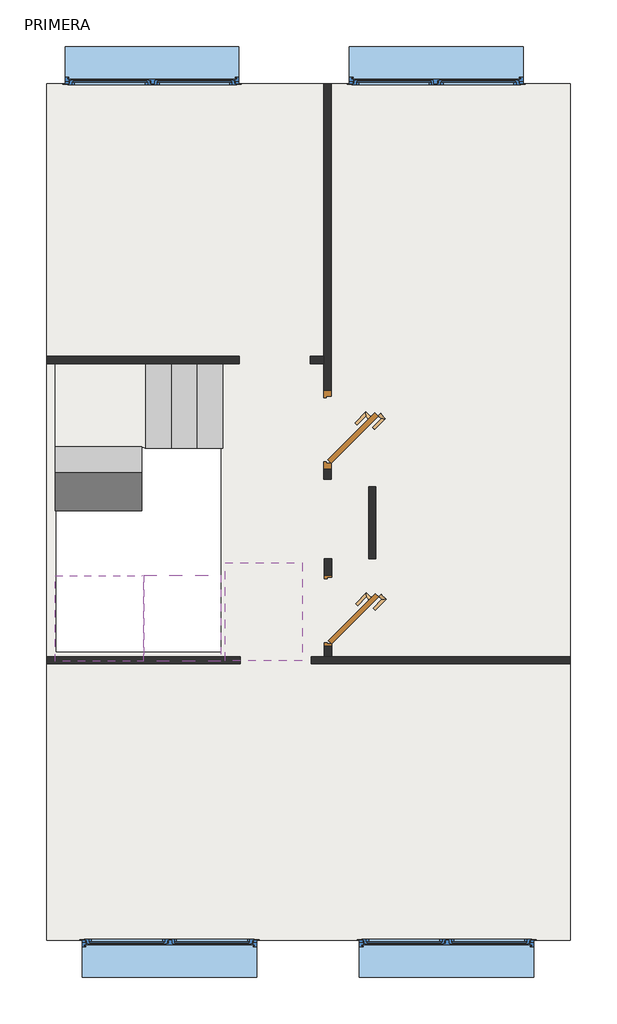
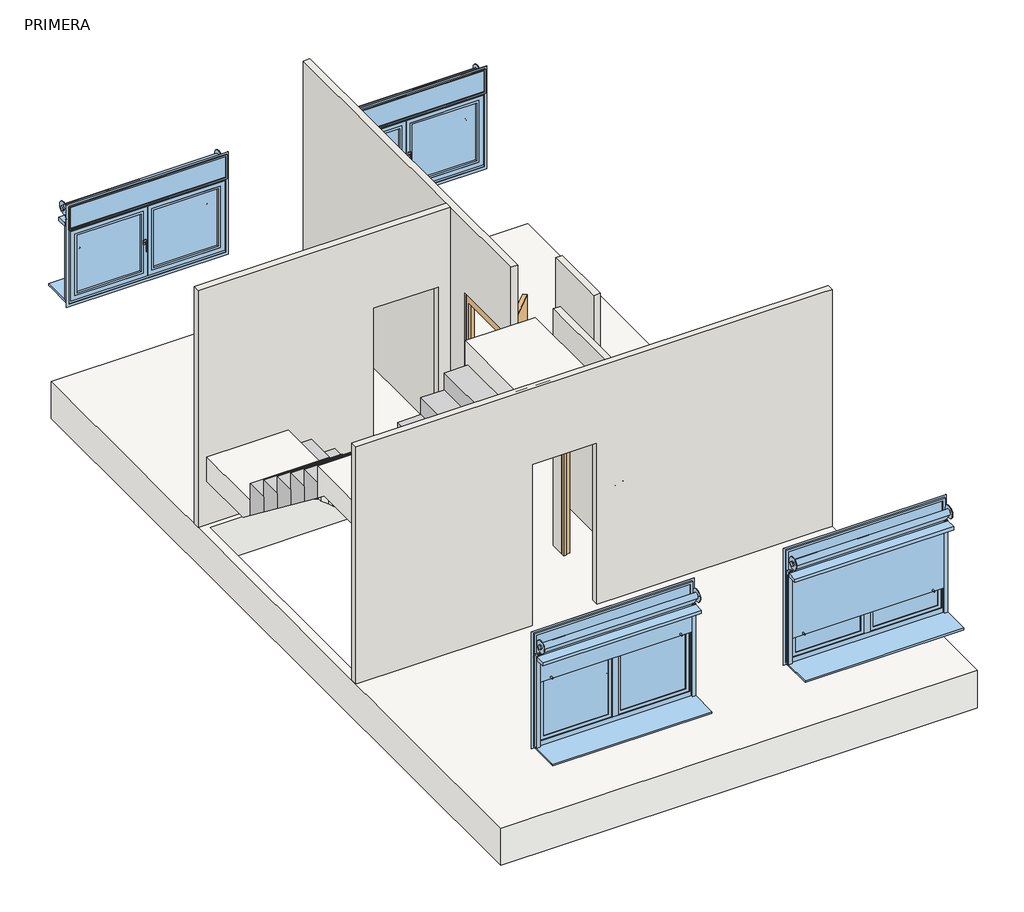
# One storey: 5 walls, 4 slabs, 4 windows, 3 stair flights, 2 doors.
"""IFC4 building model written with IfcOpenShell, lengths in millimetres."""

from ifc_helpers import new_model, si_unit, frame, origin, place, context, project, spatial, polyline, outline, extrude, faceted_brep, transform, mapped, element, save
from components import door_72_5_x_203_cm_4a5d1edf, window_7e7f52a2, window_e1a544ef, window_bd042ff0, window_6fa71baf

model = new_model("IFC4")

# Units and contexts
model_context = context("Model", 3, world=origin())
ifc_project = project(units=[si_unit("LENGTHUNIT", "METRE", prefix="MILLI")], contexts=[model_context])

# Site, building, storey
site = spatial("IfcSite", under=ifc_project)
building = spatial("IfcBuilding", under=site)
storey = spatial("IfcBuildingStorey", under=building, Name="PRIMERA", Elevation=7000.0)

# Doors
placement = place(None, origin())
door_72_5_x_203_cm_shape = door_72_5_x_203_cm_4a5d1edf(model_context)
element("IfcDoor", 1, ObjectType="Puerta abatible ciega con ventilación : 72.5 x 203 cm", at=placement, inside=storey, context=model_context, shape_type="MappedRepresentation", body=[
    mapped(door_72_5_x_203_cm_shape, transform((-3903.6811043, -10282.9701634, 7000.0), x_axis=(0.0, 1.0, 0.0), y_axis=(-1.0, 0.0, 0.0), z_axis=(0.0, 0.0, 1.0))),
])
element("IfcDoor", 2, ObjectType="Puerta abatible ciega con ventilación : 72.5 x 203 cm", at=placement, inside=storey, context=model_context, shape_type="MappedRepresentation", body=[
    mapped(door_72_5_x_203_cm_shape, transform((-3897.4530766, -12251.2017233, 7000.0), x_axis=(0.0, 1.0, 0.0), y_axis=(-1.0, 0.0, 0.0), z_axis=(0.0, 0.0, 1.0))),
])

# Slabs
element("IfcSlab", 3, ObjectType="Grosor 300 mm", at=placement, inside=storey, context=model_context, shape_type="Brep", body=[
    faceted_brep([(-5922.9130424, -11869.9758253, 9142.8571429), (-6862.9130424, -11869.9758253, 9142.8571429), (-6862.9130424, -12004.7874944, 9142.8571429), (-6862.9130424, -12803.734164, 9142.8571429), (-6048.1013733, -12803.734164, 9142.8571429), (-5902.9130424, -12803.734164, 9142.8571429), (-5902.9130424, -11864.9758253, 9142.8571429), (-5922.9130424, -11869.9758253, 8938.664539), (-5922.9130424, -11869.9758253, 8928.5714286), (-5922.9130424, -11869.9758253, 8739.6849471), (-6862.9130424, -11869.9758253, 8739.6849471), (-6862.9130424, -11869.9758253, 8928.5714286), (-6862.9130424, -12004.7874944, 8842.8571429), (-6862.9130424, -12803.734164, 8842.8571429), (-6048.1013733, -12803.734164, 8842.8571429), (-5902.9130424, -12803.734164, 8953.9706614), (-5902.9130424, -11864.9758253, 8953.9706614), (-6462.1597187, -12004.7874944, 8842.8571429), (-6048.1013733, -12004.7874944, 8842.8571429), (-5922.9130424, -12004.7874944, 8842.8571429), (-5922.9130424, -12004.7874944, 8938.664539)], [[[0, 1, 2, 3, 4, 5, 6]], [[1, 0, 7, 8, 9, 10, 11]], [[1, 11, 10, 12, 13, 3, 2]], [[3, 13, 14, 15, 5, 4]], [[6, 5, 15, 16]], [[0, 6, 16, 7]], [[12, 17, 18, 14, 13]], [[19, 18, 17, 12, 10, 9]], [[18, 19, 20]], [[20, 19, 9, 8, 7]], [[14, 18, 20, 7, 16, 15]]]),
])
element("IfcSlab", 4, ObjectType="Grosor 300 mm", at=placement, inside=storey, context=model_context, shape_type="Brep", body=[
    faceted_brep([(-5884.4147176, -10485.7372309, 7857.1428571), (-5884.4147176, -9554.9701632, 7857.1428571), (-6019.2263867, -9554.9701632, 7857.1428571), (-6862.9130424, -9554.9701632, 7857.1428571), (-6862.9130424, -10324.7874944, 7857.1428571), (-6862.9130424, -10469.9758253, 7857.1428571), (-5922.9130424, -10469.9758253, 7857.1428571), (-6862.9130424, -9554.9701632, 7557.1428571), (-6862.9130424, -10324.7874944, 7557.1428571), (-6862.9130424, -10469.9758253, 7668.2563757), (-5922.9130424, -10469.9758253, 7483.4336651), (-5884.4147176, -10485.7372309, 7453.9706614), (-5884.4147176, -9554.9701632, 7453.9706614), (-5884.4147176, -9554.9701632, 7642.8571429), (-6019.2263867, -9554.9701632, 7557.1428571), (-6019.2263867, -10469.9758253, 7668.2563757), (-6019.2263867, -10469.9758253, 7557.1428571), (-6019.2263867, -10430.5446634, 7557.1428571), (-6277.5455974, -10324.7874944, 7557.1428571), (-6019.2263867, -10324.7874944, 7557.1428571), (-6019.2263867, -10430.5446634, 7638.0794661)], [[[0, 1, 2, 3, 4, 5, 6]], [[3, 7, 8, 9, 5, 4]], [[0, 6, 10, 11]], [[1, 0, 11, 12, 13]], [[1, 13, 12, 14, 7, 3, 2]], [[6, 5, 9, 15, 16, 10]], [[17, 18, 8, 7, 14, 19]], [[18, 17, 20]], [[19, 14, 12, 11, 10, 16, 17]], [[20, 17, 16, 15]], [[8, 18, 20, 15, 9]]]),
])
element("IfcSlab", 5, ObjectType="Grosor 300 mm", at=placement, inside=storey, context=model_context, shape_type="SweptSolid", body=[
    extrude(outline(polyline([(-4178.9609461, -11732.7974399), (-4178.9609461, -12795.2974399), (-5017.4530766, -12795.2974399), (-5017.4530766, -11732.7974399), (-4178.9609461, -11732.7974399)])), frame((0.0, 0.0, 9700.0), z_axis=(0.0, 0.0, 1.0), x_axis=(1.0, 0.0, 0.0)), (0.0, 0.0, 1.0), 300.0),
])
element("IfcSlab", 6, ObjectType="Forjado", at=placement, inside=storey, context=model_context, shape_type="SweptSolid", body=[
    extrude(outline(polyline([(-1259.1530766, -6516.7945269), (-1259.1530766, -15838.1457931), (-6960.2380085, -15838.1457931), (-6960.2380085, -6516.7945269), (-1259.1530766, -6516.7945269)]), holes=[polyline([(-5064.0917474, -9625.4701634), (-6853.4380085, -9625.4701634), (-6853.4380085, -12698.734164), (-5064.0917474, -12698.734164), (-5064.0917474, -9625.4701634)])]), frame((0.0, 0.0, 6530.0), z_axis=(0.0, 0.0, 1.0), x_axis=(1.0, 0.0, 0.0)), (0.0, 0.0, 1.0), 470.0),
])

# Stair flights
element("IfcStairFlight", 7, ObjectType="Profundidad estructural 150 mm", at=placement, inside=storey, context=model_context, shape_type="Brep", body=[
    faceted_brep([(-5324.4147176, -10485.7372309, 7214.2857143), (-5044.4147176, -10485.7372309, 7214.2857143), (-5044.4147176, -9554.9701632, 7214.2857143), (-5324.4147176, -9554.9701632, 7214.2857143), (-5324.4147176, -10485.7372309, 7025.3992328), (-5291.2263867, -10485.7372309, 7000.0), (-5044.4147176, -10485.7372309, 7000.0), (-5044.4147176, -9554.9701632, 7000.0), (-5291.2263867, -9554.9701632, 7000.0), (-5324.4147176, -9554.9701632, 7025.3992328), (-5604.4147176, -10485.7372309, 7428.5714286), (-5324.4147176, -10485.7372309, 7428.5714286), (-5324.4147176, -9554.9701632, 7428.5714286), (-5604.4147176, -9554.9701632, 7428.5714286), (-5604.4147176, -10485.7372309, 7239.6849471), (-5604.4147176, -9554.9701632, 7239.6849471), (-5884.4147176, -10485.7372309, 7642.8571429), (-5604.4147176, -10485.7372309, 7642.8571429), (-5604.4147176, -9554.9701632, 7642.8571429), (-5884.4147176, -9554.9701632, 7642.8571429), (-5884.4147176, -10485.7372309, 7453.9706614), (-5884.4147176, -9554.9701632, 7453.9706614)], [[[0, 1, 2, 3]], [[1, 0, 4, 5, 6]], [[2, 1, 6, 7]], [[3, 2, 7, 8, 9]], [[10, 11, 12, 13]], [[11, 10, 14, 4, 0]], [[0, 3, 12, 11]], [[13, 12, 3, 9, 15]], [[16, 17, 18, 19]], [[17, 16, 20, 14, 10]], [[10, 13, 18, 17]], [[19, 18, 13, 15, 21]], [[16, 19, 21, 20]], [[7, 6, 5, 8]], [[8, 5, 4, 14, 20, 21, 15, 9]]]),
])
element("IfcStairFlight", 8, ObjectType="Profundidad estructural 150 mm", at=placement, inside=storey, context=model_context, shape_type="Brep", body=[
    faceted_brep([(-5922.9130424, -10749.9758253, 8071.4285714), (-5922.9130424, -10469.9758253, 8071.4285714), (-6862.9130424, -10469.9758253, 8071.4285714), (-6862.9130424, -10749.9758253, 8071.4285714), (-5922.9130424, -10749.9758253, 7882.54209), (-5922.9130424, -10469.9758253, 7668.2563757), (-6019.2263867, -10469.9758253, 7668.2563757), (-6862.9130424, -10469.9758253, 7668.2563757), (-6862.9130424, -10469.9758253, 7857.1428571), (-6862.9130424, -10749.9758253, 7882.54209), (-5922.9130424, -11029.9758253, 8285.7142857), (-5922.9130424, -10749.9758253, 8285.7142857), (-6862.9130424, -10749.9758253, 8285.7142857), (-6862.9130424, -11029.9758253, 8285.7142857), (-5922.9130424, -11029.9758253, 8096.8278043), (-6862.9130424, -11029.9758253, 8096.8278043), (-5922.9130424, -11309.9758253, 8500.0), (-5922.9130424, -11029.9758253, 8500.0), (-6862.9130424, -11029.9758253, 8500.0), (-6862.9130424, -11309.9758253, 8500.0), (-5922.9130424, -11309.9758253, 8311.1135186), (-6862.9130424, -11309.9758253, 8311.1135186), (-5922.9130424, -11589.9758253, 8714.2857143), (-5922.9130424, -11309.9758253, 8714.2857143), (-6862.9130424, -11309.9758253, 8714.2857143), (-6862.9130424, -11589.9758253, 8714.2857143), (-5922.9130424, -11589.9758253, 8525.3992328), (-6862.9130424, -11589.9758253, 8525.3992328), (-5922.9130424, -11869.9758253, 8928.5714286), (-5922.9130424, -11589.9758253, 8928.5714286), (-6862.9130424, -11589.9758253, 8928.5714286), (-6862.9130424, -11869.9758253, 8928.5714286), (-5922.9130424, -11869.9758253, 8739.6849471), (-6862.9130424, -11869.9758253, 8739.6849471)], [[[0, 1, 2, 3]], [[1, 0, 4, 5]], [[2, 1, 5, 6, 7, 8]], [[3, 2, 8, 7, 9]], [[10, 11, 12, 13]], [[11, 10, 14, 4, 0]], [[0, 3, 12, 11]], [[13, 12, 3, 9, 15]], [[16, 17, 18, 19]], [[17, 16, 20, 14, 10]], [[10, 13, 18, 17]], [[19, 18, 13, 15, 21]], [[22, 23, 24, 25]], [[23, 22, 26, 20, 16]], [[16, 19, 24, 23]], [[25, 24, 19, 21, 27]], [[28, 29, 30, 31]], [[29, 28, 32, 26, 22]], [[22, 25, 30, 29]], [[31, 30, 25, 27, 33]], [[28, 31, 33, 32]], [[5, 4, 14, 20, 26, 32, 33, 27, 21, 15, 9, 7, 6]]]),
])
element("IfcStairFlight", 9, ObjectType="Profundidad estructural 150 mm", at=placement, inside=storey, context=model_context, shape_type="Brep", body=[
    faceted_brep([(-5622.9130424, -11864.9758253, 9357.1428571), (-5902.9130424, -11864.9758253, 9357.1428571), (-5902.9130424, -12803.734164, 9357.1428571), (-5622.9130424, -12803.734164, 9357.1428571), (-5622.9130424, -11864.9758253, 9168.2563757), (-5902.9130424, -11864.9758253, 8953.9706614), (-5902.9130424, -12803.734164, 8953.9706614), (-5902.9130424, -12803.734164, 9142.8571429), (-5622.9130424, -12803.734164, 9168.2563757), (-5342.9130424, -11864.9758253, 9571.4285714), (-5622.9130424, -11864.9758253, 9571.4285714), (-5622.9130424, -12803.734164, 9571.4285714), (-5342.9130424, -12803.734164, 9571.4285714), (-5342.9130424, -11864.9758253, 9382.54209), (-5342.9130424, -12803.734164, 9382.54209), (-5062.9130424, -11864.9758253, 9785.7142857), (-5342.9130424, -11864.9758253, 9785.7142857), (-5342.9130424, -12803.734164, 9785.7142857), (-5062.9130424, -12803.734164, 9785.7142857), (-5062.9130424, -11864.9758253, 9596.8278043), (-5062.9130424, -12803.734164, 9596.8278043)], [[[0, 1, 2, 3]], [[1, 0, 4, 5]], [[2, 1, 5, 6, 7]], [[3, 2, 7, 6, 8]], [[9, 10, 11, 12]], [[10, 9, 13, 4, 0]], [[11, 10, 0, 3]], [[12, 11, 3, 8, 14]], [[15, 16, 17, 18]], [[16, 15, 19, 13, 9]], [[17, 16, 9, 12]], [[18, 17, 12, 14, 20]], [[15, 18, 20, 19]], [[5, 4, 13, 19, 20, 14, 8, 6]]]),
])

# Walls
element("IfcWall", 10, ObjectType="Tabique cartón-yeso", at=placement, inside=storey, context=model_context, shape_type="Brep", body=[
    faceted_brep([(-3943.6811043, -9562.9701634, 10000.0), (-6960.2380085, -9562.9701634, 10000.0), (-6960.2380085, -9562.9701634, 7000.0), (-4862.8701753, -9562.9701634, 7000.0), (-4862.8701753, -9562.9701634, 9040.0), (-4089.4530766, -9562.9701634, 9040.0), (-4089.4530766, -9562.9701634, 7000.0), (-3943.6811043, -9562.9701634, 7000.0), (-6960.2380085, -9482.9701634, 10000.0), (-6909.4740076, -9482.9701634, 10000.0), (-3943.6811043, -9482.9701634, 10000.0), (-3943.6811043, -9482.9701634, 7000.0), (-4089.4530766, -9482.9701634, 7000.0), (-4089.4530766, -9482.9701634, 9040.0), (-4862.8701753, -9482.9701634, 9040.0), (-4862.8701753, -9482.9701634, 7000.0), (-6909.4740076, -9482.9701634, 7000.0), (-6960.2380085, -9482.9701634, 7000.0), (-6960.2380085, -9520.2061626, 7000.0)], [[[0, 1, 2, 3, 4, 5, 6, 7]], [[8, 9, 10, 11, 12, 13, 14, 15, 16, 17]], [[11, 7, 6, 12]], [[2, 18, 17, 16, 15, 3]], [[1, 0, 10, 9, 8]], [[5, 13, 12, 6]], [[14, 4, 3, 15]], [[13, 5, 4, 14]], [[0, 7, 11, 10]], [[2, 1, 8, 17, 18]]]),
])
element("IfcWall", 11, ObjectType="Tabique cartón-yeso", at=placement, inside=storey, context=model_context, shape_type="Brep", body=[
    faceted_brep([(-6960.2380085, -12750.9701634, 10000.0), (-3937.4530766, -12750.9701634, 10000.0), (-3857.4530766, -12750.9701634, 10000.0), (-1259.1530766, -12750.9701634, 10000.0), (-1259.1530766, -12750.9701634, 7000.0), (-3857.4530766, -12750.9701634, 7000.0), (-3937.4530766, -12750.9701634, 7000.0), (-4076.9530766, -12750.9701634, 7000.0), (-4076.9530766, -12750.9701634, 9040.0), (-4850.3701753, -12750.9701634, 9040.0), (-4850.3701753, -12750.9701634, 7000.0), (-6960.2380085, -12750.9701634, 7000.0), (-1259.1530766, -12830.9701634, 10000.0), (-1359.1530766, -12830.9701634, 10000.0), (-6909.4740076, -12830.9701634, 10000.0), (-6960.2380085, -12830.9701634, 10000.0), (-6960.2380085, -12830.9701634, 7000.0), (-6909.4740076, -12830.9701634, 7000.0), (-4850.3701753, -12830.9701634, 7000.0), (-4850.3701753, -12830.9701634, 9040.0), (-4076.9530766, -12830.9701634, 9040.0), (-4076.9530766, -12830.9701634, 7000.0), (-1359.1530766, -12830.9701634, 7000.0), (-1259.1530766, -12830.9701634, 7000.0), (-6960.2380085, -12829.734164, 7000.0), (-1259.1530766, -12829.734164, 7000.0)], [[[0, 1, 2, 3, 4, 5, 6, 7, 8, 9, 10, 11]], [[12, 13, 14, 15, 16, 17, 18, 19, 20, 21, 22, 23]], [[16, 24, 11, 10, 18, 17]], [[4, 25, 23, 22, 21, 7, 6, 5]], [[3, 2, 1, 0, 15, 14, 13, 12]], [[20, 8, 7, 21]], [[9, 19, 18, 10]], [[8, 20, 19, 9]], [[0, 11, 24, 16, 15]], [[4, 3, 12, 23, 25]]]),
])
element("IfcWall", 12, ObjectType="Tabique cartón-yeso", at=placement, inside=storey, context=model_context, shape_type="Brep", body=[
    faceted_brep([(-3376.0472459, -11687.9332832, 7000.0), (-3376.0472459, -10900.4118523, 7000.0), (-3376.0472459, -10900.4118523, 10000.0), (-3376.0472459, -11687.9332832, 10000.0), (-3456.0472459, -11687.9332832, 7000.0), (-3456.0472459, -11687.9332832, 10000.0), (-3456.0472459, -10900.4118523, 10000.0), (-3456.0472459, -10900.4118523, 7000.0), (-3377.5472459, -11687.9332832, 7000.0)], [[[0, 1, 2, 3]], [[4, 5, 6, 7]], [[1, 0, 8, 4, 7]], [[3, 2, 6, 5]], [[2, 1, 7, 6]], [[0, 3, 5, 4, 8]]]),
])
element("IfcWall", 13, ObjectType="Tabique cartón-yeso", at=placement, inside=storey, context=model_context, shape_type="Brep", body=[
    faceted_brep([(-3857.4530766, -11687.9332832, 10000.0), (-3857.4530766, -11767.9332832, 10000.0), (-3857.4530766, -12750.9701634, 10000.0), (-3857.4530766, -12750.9701634, 7000.0), (-3857.4530766, -12638.7017233, 7000.0), (-3857.4530766, -12638.7017233, 9090.0), (-3857.4530766, -11865.2846246, 9090.0), (-3857.4530766, -11865.2846246, 7000.0), (-3857.4530766, -11767.9332832, 7000.0), (-3857.4530766, -11687.9332832, 7000.0), (-3937.4530766, -12750.9701634, 10000.0), (-3937.4530766, -11687.9332832, 10000.0), (-3937.4530766, -11687.9332832, 7000.0), (-3937.4530766, -11865.2846246, 7000.0), (-3937.4530766, -11865.2846246, 9090.0), (-3937.4530766, -12638.7017233, 9090.0), (-3937.4530766, -12638.7017233, 7000.0), (-3937.4530766, -12750.9701634, 7000.0)], [[[0, 1, 2, 3, 4, 5, 6, 7, 8, 9]], [[10, 11, 12, 13, 14, 15, 16, 17]], [[3, 17, 16, 4]], [[12, 9, 8, 7, 13]], [[2, 1, 0, 11, 10]], [[3, 2, 10, 17]], [[15, 5, 4, 16]], [[6, 14, 13, 7]], [[5, 15, 14, 6]], [[0, 9, 12, 11]]]),
])
element("IfcWall", 14, ObjectType="Tabique cartón-yeso", at=placement, inside=storey, context=model_context, shape_type="Brep", body=[
    faceted_brep([(-3863.6811043, -6516.7945269, 10000.0), (-3863.6811043, -10820.4118523, 10000.0), (-3863.6811043, -10820.4118523, 7000.0), (-3863.6811043, -10670.4701634, 7000.0), (-3863.6811043, -10670.4701634, 9090.0), (-3863.6811043, -9897.0530647, 9090.0), (-3863.6811043, -9897.0530647, 7000.0), (-3863.6811043, -6516.7945269, 7000.0), (-3943.6811043, -10820.4118523, 10000.0), (-3943.6811043, -9562.9701634, 10000.0), (-3943.6811043, -9482.9701634, 10000.0), (-3943.6811043, -6516.7945269, 10000.0), (-3943.6811043, -6516.7945269, 7000.0), (-3943.6811043, -9482.9701634, 7000.0), (-3943.6811043, -9562.9701634, 7000.0), (-3943.6811043, -9897.0530647, 7000.0), (-3943.6811043, -9897.0530647, 9090.0), (-3943.6811043, -10670.4701634, 9090.0), (-3943.6811043, -10670.4701634, 7000.0), (-3943.6811043, -10820.4118523, 7000.0)], [[[0, 1, 2, 3, 4, 5, 6, 7]], [[8, 9, 10, 11, 12, 13, 14, 15, 16, 17, 18, 19]], [[12, 7, 6, 15, 14, 13]], [[2, 19, 18, 3]], [[1, 0, 11, 10, 9, 8]], [[17, 4, 3, 18]], [[5, 16, 15, 6]], [[4, 17, 16, 5]], [[0, 7, 12, 11]], [[2, 1, 8, 19]]]),
])

# Windows
window_shape = window_7e7f52a2(model_context)
element("IfcWindow", 15, ObjectType="Ventana monoblock practicable, 2 hojas sin cajon para poner emparchado : CA-05. COCINA - DORMITORIOS NORTE", at=placement, inside=storey, context=model_context, shape_type="MappedRepresentation", body=[
    mapped(window_shape, transform((-5811.1660363, -6389.2945269, 7000.0), x_axis=(-1.0, 0.0, 0.0), y_axis=(0.0, -1.0, 0.0), z_axis=(0.0, 0.0, 1.0))),
])
window_2_shape = window_e1a544ef(model_context)
element("IfcWindow", 16, ObjectType="Ventana monoblock practicable, 2 hojas sin cajon para poner emparchado : CA-05. COCINA - DORMITORIOS NORTE", at=placement, inside=storey, context=model_context, shape_type="MappedRepresentation", body=[
    mapped(window_2_shape, transform((-2718.6811043, -6389.2945269, 7000.0), x_axis=(1.0, 0.0, 0.0), y_axis=(0.0, 1.0, 0.0), z_axis=(0.0, 0.0, 1.0))),
])
window_3_shape = window_bd042ff0(model_context)
element("IfcWindow", 17, ObjectType="Ventana monoblock practicable, 2 hojas sin cajon para poner emparchado : CA-02. SALÓN - DORMITORIO SUR", at=placement, inside=storey, context=model_context, shape_type="MappedRepresentation", body=[
    mapped(window_3_shape, transform((-5622.7088717, -15965.6457931, 7000.0), x_axis=(-1.0, 0.0, 0.0), y_axis=(0.0, -1.0, 0.0), z_axis=(0.0, 0.0, 1.0))),
])
window_4_shape = window_6fa71baf(model_context)
element("IfcWindow", 18, ObjectType="Ventana monoblock practicable, 2 hojas sin cajon para poner emparchado : CA-02. SALÓN - DORMITORIO SUR", at=placement, inside=storey, context=model_context, shape_type="MappedRepresentation", body=[
    mapped(window_4_shape, transform((-2605.2239397, -15965.6457931, 7000.0), x_axis=(-1.0, 0.0, 0.0), y_axis=(0.0, -1.0, 0.0), z_axis=(0.0, 0.0, 1.0))),
])

save(model, "model.ifc")
